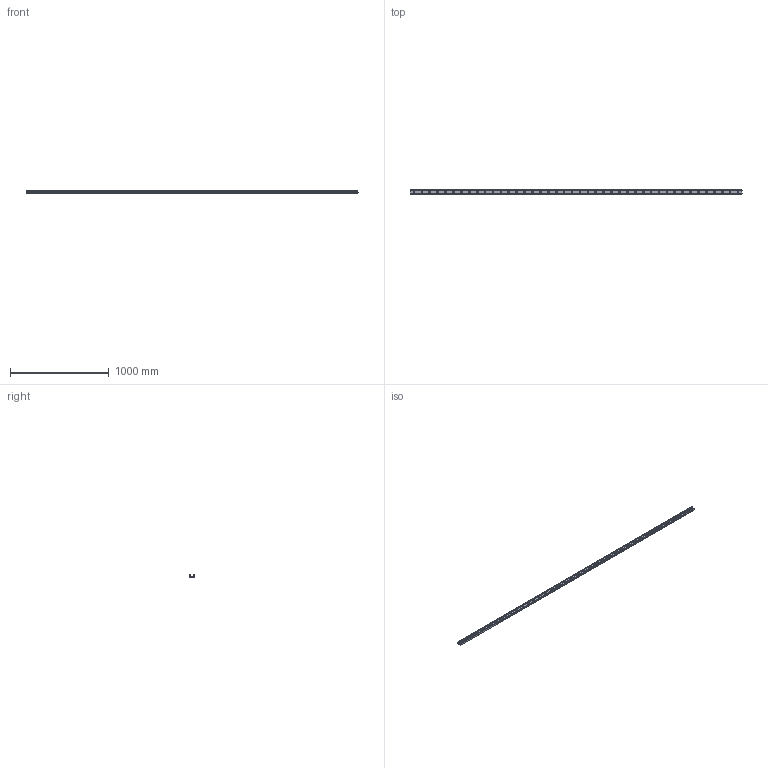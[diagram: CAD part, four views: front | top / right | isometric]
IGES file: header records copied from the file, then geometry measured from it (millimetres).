
Start section: SolidWorks IGES file using analytic representation for surfaces
Global section: file name: C:\Users\IanO\Desktop\43\L1943.ULV43_v2_20180121_IGES\L1943.ULV43-3360.igs; native system: SolidWorks 2017; preprocessor: SolidWorks 2017; author: IanO; date: 190121.090539; units: millimetre
Bounding box: 3360 x 43 x 21 mm (x, y, z)
Surface area: 521245.8 mm2 (no closed solid volume)
Topology: 0 solids, 0 shells, 194 faces, 3654 edges, 3654 vertices
Faces by surface type: revolution 181, bspline 13
